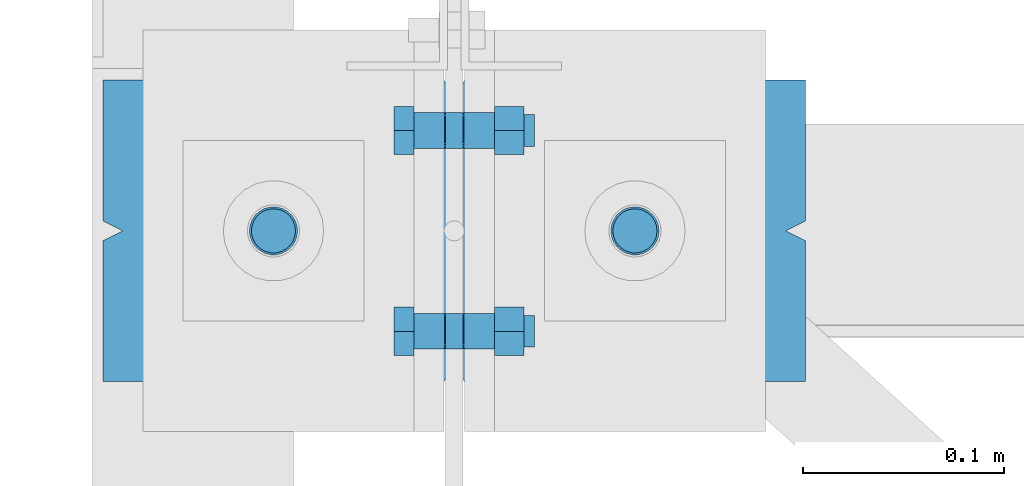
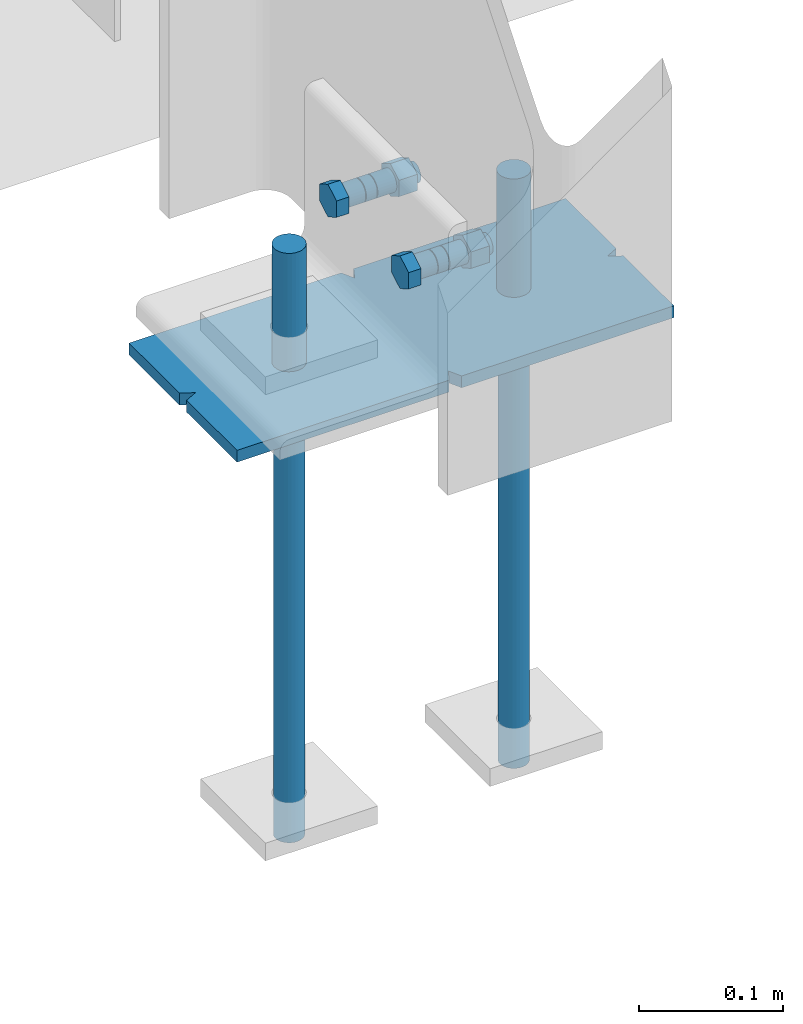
# One storey, part 76 of 123: 5 discrete accessories, 1 mechanical fastener, 2 elements without a shape of their own.
"""IFC2X3 building model written with IfcOpenShell, lengths in millimetres."""

import ifcopenshell
import ifcopenshell.guid

model = None  # the IFC model being written
_history = None  # IfcOwnerHistory: only IFC2X3 demands one
_inside = {}  # id of a spatial element -> (the spatial element, [elements in it])
_under = {}  # id of a project, library or spatial element -> (it, [spatial elements below it])
_declared = {}  # id of a project -> (the project, [libraries it declares])
_typed = {}  # id of a type object -> (the type object, [elements of that type])
_made_of = {}  # id of a material, layer set ... -> (it, [elements and type objects made of it])


def new_model(schema):
    """Start an empty IFC model of exactly this schema.

    Asked for "IFC4X3", IfcOpenShell would pick the latest addendum, in which some entities
    have other attributes; the version numbers below select the first issue.
    IFC2X3 requires an IfcOwnerHistory on every rooted entity: one is made here for all.
    """
    global model, _history
    if schema == "IFC4X3":
        model = ifcopenshell.file(schema_version=(4, 3, 0, 0))
    else:
        model = ifcopenshell.file(schema=schema)
    _inside.clear()
    _under.clear()
    _declared.clear()
    _typed.clear()
    _made_of.clear()
    _history = None
    if model.schema == "IFC2X3":
        org = make("IfcOrganization", Name="unknown")
        user = make(
            "IfcPersonAndOrganization",
            ThePerson=make("IfcPerson", FamilyName="unknown"),
            TheOrganization=org,
        )
        app = make(
            "IfcApplication",
            ApplicationDeveloper=org,
            Version="unknown",
            ApplicationFullName="unknown",
            ApplicationIdentifier="unknown",
        )
        _history = make(
            "IfcOwnerHistory",
            OwningUser=user,
            OwningApplication=app,
            ChangeAction="ADDED",
            CreationDate=0,
        )
    return model


def make(cls, **values):
    """One entity of the class cls with the attributes given. An attribute that is None is left unset."""
    return model.create_entity(
        cls, **{name: value for name, value in values.items() if value is not None}
    )


def rooted(cls, **values):
    """An entity with a GlobalId (a new one), such as an element, a storey or a relation."""
    return make(cls, GlobalId=ifcopenshell.guid.new(), OwnerHistory=_history, **values)


def si_unit(unit_type, name, prefix=None):
    """IfcSIUnit, for example si_unit("LENGTHUNIT", "METRE", prefix="MILLI")."""
    return make("IfcSIUnit", UnitType=unit_type, Prefix=prefix, Name=name)


def assignment(units):
    """IfcUnitAssignment: the units of a project."""
    return None if units is None else make("IfcUnitAssignment", Units=units)


def point(xyz):
    """IfcCartesianPoint."""
    return None if xyz is None else make("IfcCartesianPoint", Coordinates=xyz)


def direction(xyz):
    """IfcDirection."""
    return None if xyz is None else make("IfcDirection", DirectionRatios=xyz)


def frame(location, z_axis=None, x_axis=None):
    """IfcAxis2Placement3D, a coordinate frame: its origin and axes. An axis left out is left unset."""
    return make(
        "IfcAxis2Placement3D",
        Location=point(location),
        Axis=direction(z_axis),
        RefDirection=direction(x_axis),
    )


def frame_2d(location, x_axis=None):
    """IfcAxis2Placement2D, a coordinate frame in the plane: its origin and x axis."""
    return make(
        "IfcAxis2Placement2D", Location=point(location), RefDirection=direction(x_axis)
    )


def origin_with_axes():
    """The frame at (0, 0, 0) with the z axis (0, 0, 1) and the x axis (1, 0, 0) written out."""
    return frame((0.0, 0.0, 0.0), z_axis=(0.0, 0.0, 1.0), x_axis=(1.0, 0.0, 0.0))


def origin_2d_with_axis():
    """The frame at (0, 0) in the plane with the x axis (1, 0) written out."""
    return frame_2d((0.0, 0.0), x_axis=(1.0, 0.0))


def place(relative_to, where):
    """IfcLocalPlacement: puts the frame where relative to a parent placement (None: the world)."""
    return make(
        "IfcLocalPlacement", PlacementRelTo=relative_to, RelativePlacement=where
    )


def context(
    kind, dimensions, precision=None, world=None, true_north=None, identifier=None
):
    """IfcGeometricRepresentationContext, for example the 3D "Model" context."""
    return make(
        "IfcGeometricRepresentationContext",
        ContextIdentifier=identifier,
        ContextType=kind,
        CoordinateSpaceDimension=dimensions,
        Precision=precision,
        WorldCoordinateSystem=world,
        TrueNorth=true_north,
    )


def subcontext(parent, identifier, kind, view, scale=None):
    """IfcGeometricRepresentationSubContext, for example "Body" below "Model"."""
    return make(
        "IfcGeometricRepresentationSubContext",
        ContextIdentifier=identifier,
        ContextType=kind,
        ParentContext=parent,
        TargetScale=scale,
        TargetView=view,
    )


def project(units=None, contexts=None):
    """IfcProject with its units and contexts."""
    return rooted(
        "IfcProject",
        Name="project",
        RepresentationContexts=contexts,
        UnitsInContext=assignment(units),
    )


def spatial(cls, under=None, at=None, **own):
    """A site, building, storey or space (cls), placed at a placement, below another one or the project."""
    s = rooted(cls, ObjectPlacement=at, **own)
    if under is not None:
        _under.setdefault(under.id(), (under, []))[1].append(s)
    return s


def polyline(points):
    """IfcPolyline through the points."""
    return make("IfcPolyline", Points=[point(p) for p in points])


def profile(cls, at=None, kind="AREA", **sizes):
    """A parametric profile (cls). Its sizes go by their IFC names, for example OverallWidth=200.0."""
    return make(cls, ProfileType=kind, Position=at, **sizes)


def circle(**sizes):
    """IfcCircleProfileDef."""
    return profile("IfcCircleProfileDef", **sizes)


def outline(outer, holes=None, kind="AREA"):
    """IfcArbitraryClosedProfileDef: a profile drawn as a closed curve; with holes, ...WithVoids."""
    if holes is None:
        return make("IfcArbitraryClosedProfileDef", ProfileType=kind, OuterCurve=outer)
    return make(
        "IfcArbitraryProfileDefWithVoids",
        ProfileType=kind,
        OuterCurve=outer,
        InnerCurves=holes,
    )


def extrude(swept, where, along, depth):
    """IfcExtrudedAreaSolid: the profile swept, set in the frame where, extruded along a direction by depth."""
    return make(
        "IfcExtrudedAreaSolid",
        SweptArea=swept,
        Position=where,
        ExtrudedDirection=direction(along),
        Depth=depth,
    )


def boolean(op, a, b):
    """IfcBooleanResult of two solids."""
    return make("IfcBooleanResult", Operator=op, FirstOperand=a, SecondOperand=b)


def shape(context_of_items, identifier, shape_type, items):
    """IfcShapeRepresentation: the items that make up one representation, for example the "Body"."""
    return make(
        "IfcShapeRepresentation",
        ContextOfItems=context_of_items,
        RepresentationIdentifier=identifier,
        RepresentationType=shape_type,
        Items=items,
    )


def source(mapping_origin, context_of_items, identifier, shape_type, items):
    """IfcRepresentationMap: a shape defined once, which mapped items show again and again."""
    return make(
        "IfcRepresentationMap",
        MappingOrigin=mapping_origin,
        MappedRepresentation=shape(context_of_items, identifier, shape_type, items),
    )


def transform(
    local_origin,
    x_axis=None,
    y_axis=None,
    z_axis=None,
    scale=None,
    scale2=None,
    scale3=None,
    uniform=True,
):
    """IfcCartesianTransformationOperator3D, or its non-uniform kind. x_axis, y_axis, z_axis: its Axis1, 2, 3."""
    if uniform:
        return make(
            "IfcCartesianTransformationOperator3D",
            Axis1=direction(x_axis),
            Axis2=direction(y_axis),
            LocalOrigin=point(local_origin),
            Scale=scale,
            Axis3=direction(z_axis),
        )
    return make(
        "IfcCartesianTransformationOperator3DnonUniform",
        Axis1=direction(x_axis),
        Axis2=direction(y_axis),
        LocalOrigin=point(local_origin),
        Scale=scale,
        Axis3=direction(z_axis),
        Scale2=scale2,
        Scale3=scale3,
    )


def mapped(mapping_source, mapping_target):
    """IfcMappedItem: shows the shape of a source again, moved by a transform."""
    return make(
        "IfcMappedItem", MappingSource=mapping_source, MappingTarget=mapping_target
    )


def material(Name=None, Category=None):
    """IfcMaterial."""
    return make("IfcMaterial", Name=Name, Category=Category)


def made_of(thing, what):
    """Note that an element or type object is made of a material, layer set ...; save() writes the relation."""
    if what is not None:
        _made_of.setdefault(what.id(), (what, []))[1].append(thing)
    return thing


def type_object(cls, material=None, **own):
    """A type object (cls), such as IfcWallType, which elements share."""
    return made_of(rooted(cls, **own), material)


def element(
    cls,
    number,
    at=None,
    inside=None,
    cuts=None,
    type_object=None,
    material=None,
    context=None,
    identifier="Body",
    shape_type=None,
    held_by="IfcProductDefinitionShape",
    body=None,
    shapes=None,
    **own,
):
    """One element of the class cls, such as IfcWall. Its Tag is "e" and its number.

    at: its placement. inside: the storey or other place that contains it. cuts: it is an
    opening in that element (IfcRelVoidsElement). A single representation is given by context,
    identifier, shape_type and body (its items); several are given by shapes. held_by: the class
    of the entity that holds the representations. save() writes the other relations.
    """
    e = rooted(cls, Tag="e%d" % number, ObjectPlacement=at, **own)
    if body is not None:
        shapes = [shape(context, identifier, shape_type, body)]
    if shapes is not None:
        e.Representation = make(held_by, Representations=shapes)
    if inside is not None:
        _inside.setdefault(inside.id(), (inside, []))[1].append(e)
    if cuts is not None:
        rooted(
            "IfcRelVoidsElement", RelatingBuildingElement=cuts, RelatedOpeningElement=e
        )
    if type_object is not None:
        _typed.setdefault(type_object.id(), (type_object, []))[1].append(e)
    return made_of(e, material)


def aggregate(whole, parts):
    """IfcRelAggregates: a whole, such as a stair, and the parts it consists of."""
    return rooted("IfcRelAggregates", RelatingObject=whole, RelatedObjects=parts)


def save(model, path):
    """Write the relations noted so far, then the file.

    IfcRelAggregates (storeys below a building ...), IfcRelContainedInSpatialStructure (elements
    in a storey), IfcRelDefinesByType, IfcRelAssociatesMaterial and IfcRelDeclares: one each for
    every whole, place, type object, material and project.
    """
    for whole, parts in _under.values():
        aggregate(whole, parts)
    for where, things in _inside.values():
        rooted(
            "IfcRelContainedInSpatialStructure",
            RelatedElements=things,
            RelatingStructure=where,
        )
    for kind, things in _typed.values():
        rooted("IfcRelDefinesByType", RelatedObjects=things, RelatingType=kind)
    for what, things in _made_of.values():
        rooted("IfcRelAssociatesMaterial", RelatedObjects=things, RelatingMaterial=what)
    for by, libraries in _declared.values():
        rooted("IfcRelDeclares", RelatingContext=by, RelatedDefinitions=libraries)
    model.write(path)


model = new_model("IFC2X3")

# Units and contexts
model_context = context("Model", 3, precision=1e-05, world=origin_with_axes())
body_context = subcontext(model_context, "Body", "Model", "MODEL_VIEW")
ifc_project = project(units=[si_unit("LENGTHUNIT", "METRE", prefix="MILLI"), si_unit("AREAUNIT", "SQUARE_METRE"), si_unit("VOLUMEUNIT", "CUBIC_METRE"), si_unit("MASSUNIT", "GRAM", prefix="KILO"), si_unit("TIMEUNIT", "SECOND"), si_unit("PLANEANGLEUNIT", "RADIAN"), si_unit("SOLIDANGLEUNIT", "STERADIAN"), si_unit("THERMODYNAMICTEMPERATUREUNIT", "DEGREE_CELSIUS"), si_unit("LUMINOUSINTENSITYUNIT", "LUMEN")], contexts=[model_context])

# Site, building, storey
site_placement = place(None, origin_with_axes())
site = spatial("IfcSite", under=ifc_project, at=site_placement, Name="Undefined", CompositionType="ELEMENT")
building_placement = place(site_placement, origin_with_axes())
building = spatial("IfcBuilding", under=site, at=building_placement, Name="Undefined", CompositionType="ELEMENT")
storey_placement = place(building_placement, origin_with_axes())
storey = spatial("IfcBuildingStorey", under=building, at=storey_placement, Name="Undefined", CompositionType="ELEMENT", Elevation=0.0)

# Assembly, discrete accessories
assembly_1_placement = place(storey_placement, origin_with_axes())
assembly_1 = element("IfcElementAssembly", 1, at=assembly_1_placement, inside=storey, Name="Steel Assembly", AssemblyPlace="NOTDEFINED", PredefinedType="RIGID_FRAME")
ifc_material_1 = material(Name="STEEL/S235-E24")
discrete_accessory_type_1 = type_object("IfcDiscreteAccessoryType", Name="TIGE D'ANCRAGE")
discrete_accessory_1_placement = place(assembly_1_placement, frame((-90.0028495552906, 15109.9999996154, -150.0), z_axis=(0.0, 1.0, 0.0), x_axis=(0.0, 0.0, -1.0)))
discrete_accessory_1 = element("IfcDiscreteAccessory", 2, at=discrete_accessory_1_placement, type_object=discrete_accessory_type_1, material=ifc_material_1, Name="TIGE D'ANCRAGE", ObjectType="D24", context=body_context, shape_type="SweptSolid", body=[
    extrude(circle(Radius=12.0, at=origin_2d_with_axis()), frame((150.0, 0.0, 0.0), z_axis=(-1.0, 0.0, 0.0), x_axis=(0.0, -1.0, 0.0)), (0.0, 0.0, 1.0), 150.0),
])
discrete_accessory_2_placement = place(assembly_1_placement, frame((-90.0028495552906, 15109.9999996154, -300.0), z_axis=(0.0, 1.0, 0.0), x_axis=(0.0, 0.0, -1.0)))
discrete_accessory_2 = element("IfcDiscreteAccessory", 3, at=discrete_accessory_2_placement, type_object=discrete_accessory_type_1, material=ifc_material_1, Name="TIGE D'ANCRAGE", ObjectType="D22", context=body_context, shape_type="SweptSolid", body=[
    extrude(circle(Radius=11.0, at=origin_2d_with_axis()), frame((350.0, 0.0, 0.0), z_axis=(-1.0, 0.0, 0.0), x_axis=(0.0, -1.0, 0.0)), (0.0, 0.0, 1.0), 350.0),
])
discrete_accessory_3_placement = place(assembly_1_placement, frame((89.9971504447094, 15109.9999996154, -150.0), z_axis=(0.0, 1.0, 0.0), x_axis=(0.0, 0.0, -1.0)))
discrete_accessory_3 = element("IfcDiscreteAccessory", 4, at=discrete_accessory_3_placement, type_object=discrete_accessory_type_1, material=ifc_material_1, Name="TIGE D'ANCRAGE", ObjectType="D24", context=body_context, shape_type="SweptSolid", body=[
    extrude(circle(Radius=12.0, at=origin_2d_with_axis()), frame((150.0, 0.0, 0.0), z_axis=(-1.0, 0.0, 0.0), x_axis=(0.0, -1.0, 0.0)), (0.0, 0.0, 1.0), 150.0),
])
discrete_accessory_4_placement = place(assembly_1_placement, frame((89.9971504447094, 15109.9999996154, -300.0), z_axis=(0.0, 1.0, 0.0), x_axis=(0.0, 0.0, -1.0)))
discrete_accessory_4 = element("IfcDiscreteAccessory", 5, at=discrete_accessory_4_placement, type_object=discrete_accessory_type_1, material=ifc_material_1, Name="TIGE D'ANCRAGE", ObjectType="D22", context=body_context, shape_type="SweptSolid", body=[
    extrude(circle(Radius=11.0, at=origin_2d_with_axis()), frame((350.0, 0.0, 0.0), z_axis=(-1.0, 0.0, 0.0), x_axis=(0.0, -1.0, 0.0)), (0.0, 0.0, 1.0), 350.0),
])
discrete_accessory_type_2 = type_object("IfcDiscreteAccessoryType", Name="PRESCELLEMENT PS24")
discrete_accessory_5_placement = place(assembly_1_placement, frame((175.0, 15109.9999996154, -255.0), z_axis=(0.0, 0.0, 1.0), x_axis=(-1.0, 0.0, 0.0)))
discrete_accessory_5 = element("IfcDiscreteAccessory", 6, at=discrete_accessory_5_placement, type_object=discrete_accessory_type_2, material=ifc_material_1, Name="PRESCELLEMENT PS24", ObjectType="PL10*150", context=body_context, shape_type="CSG", body=[
    boolean("DIFFERENCE", boolean("DIFFERENCE", boolean("DIFFERENCE", boolean("DIFFERENCE", extrude(outline(polyline([(175.000000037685, -65.0000000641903), (169.999999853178, -74.9999999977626), (0.0, -75.0), (0.0, -5.0), (9.99999993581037, -3.76858224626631e-08), (0.0, 5.00000014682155), (0.0, 75.0), (170.0, 75.0), (174.999999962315, 65.0000000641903), (180.000000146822, 75.0), (350.0, 75.0), (350.0, 5.00000018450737), (340.0, 0.0), (350.0, -4.99999996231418), (350.0, -75.0), (180.0, -75.0), (175.000000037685, -65.0000000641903)])), frame((0.0, 0.0, -5.0), z_axis=(0.0, 0.0, 1.0), x_axis=(1.0, 0.0, 0.0)), (0.0, 0.0, 1.0), 10.0), extrude(outline(polyline([(0.0, 0.0), (11.1803398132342, 1.2732925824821e-11), (4.47213602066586, 8.94427204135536), (0.0, 0.0)])), frame((0.0, -5.0, -7.5), z_axis=(0.0, 0.0, 1.0), x_axis=(0.89442719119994, 0.44721359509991, 0.0)), (0.0, 0.0, 1.0), 15.0)), extrude(outline(polyline([(0.0, 0.0), (11.1803398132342, 1.2732925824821e-11), (4.47213602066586, 8.94427204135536), (0.0, 0.0)])), frame((180.0, -75.0, -7.5), z_axis=(0.0, 0.0, 1.0), x_axis=(-0.447213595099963, 0.894427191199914, 0.0)), (0.0, 0.0, 1.0), 15.0)), extrude(outline(polyline([(0.0, 0.0), (11.1803398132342, 1.2732925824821e-11), (6.70820379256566, 8.94427204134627), (0.0, 0.0)])), frame((340.0, 0.0, -7.5), z_axis=(0.0, 0.0, 1.0), x_axis=(0.89442719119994, -0.44721359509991, 0.0)), (0.0, 0.0, 1.0), 15.0)), extrude(outline(polyline([(0.0, 0.0), (11.1803398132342, 1.2732925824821e-11), (4.47213602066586, 8.94427204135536), (0.0, 0.0)])), frame((170.0, 75.0, -7.5), z_axis=(0.0, 0.0, 1.0), x_axis=(0.447213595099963, -0.894427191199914, 0.0)), (0.0, 0.0, 1.0), 15.0)),
])
aggregate(assembly_1, [discrete_accessory_1, discrete_accessory_2, discrete_accessory_3, discrete_accessory_4, discrete_accessory_5])

# Assembly, mechanical fastener
assembly_2_placement = place(storey_placement, origin_with_axes())
assembly_2 = element("IfcElementAssembly", 7, at=assembly_2_placement, inside=storey, Name="Steel Assembly", AssemblyPlace="NOTDEFINED", PredefinedType="RIGID_FRAME")
ifc_material_2 = material(Name="8.8-SB-Z")
discrete_accessory_type_3 = type_object("IfcDiscreteAccessoryType", Name="Bolt assembly")
shared_shape = source(origin_with_axes(), body_context, "Body", "SweptSolid", [
    extrude(circle(Radius=9.0, at=origin_2d_with_axis()), frame((0.0, -4.29715063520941, 0.0), z_axis=(0.0, 1.0, 0.0), x_axis=(1.0, 0.0, 0.0)), (0.0, 0.0, 1.0), 8.6),
    extrude(circle(Radius=9.0, at=origin_2d_with_axis()), frame((0.0, -19.9, 0.0), z_axis=(0.0, 1.0, 0.0), x_axis=(1.0, 0.0, 0.0)), (0.0, 0.0, 1.0), 15.0),
    extrude(circle(Radius=9.0, at=origin_2d_with_axis()), frame((0.0, 4.90000000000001, 0.0), z_axis=(0.0, 1.0, 0.0), x_axis=(1.0, 0.0, 0.0)), (0.0, 0.0, 1.0), 15.1),
    extrude(outline(polyline([(13.85640646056, 0.0), (6.92820323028, 12.0000000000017), (-6.92820323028, 12.0000000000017), (-13.85640646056, 0.0), (-6.92820323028, -12.0000000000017), (6.92820323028, -12.0000000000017), (13.85640646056, 0.0)])), frame((0.0, -30.0, 0.0), z_axis=(0.0, 1.0, 0.0), x_axis=(1.0, 0.0, 0.0)), (0.0, 0.0, 1.0), 10.0),
    extrude(circle(Radius=8.0, at=origin_2d_with_axis()), frame((0.0, -20.0, 0.0), z_axis=(0.0, 1.0, 0.0), x_axis=(1.0, 0.0, 0.0)), (0.0, 0.0, 1.0), 60.0),
    extrude(outline(polyline([(13.85640646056, 0.0), (6.92820323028, 12.0000000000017), (-6.92820323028, 12.0000000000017), (-13.85640646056, 0.0), (-6.92820323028, -12.0000000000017), (6.92820323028, -12.0000000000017), (13.85640646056, 0.0)])), frame((0.0, 20.0, 0.0), z_axis=(0.0, 1.0, 0.0), x_axis=(1.0, 0.0, 0.0)), (0.0, 0.0, 1.0), 14.8),
])
mechanical_fastener_placement = place(assembly_2_placement, frame((-0.00284890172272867, 15110.0000024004, -164.999999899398), z_axis=(0.0, -1.0, 0.0), x_axis=(0.0, 0.0, -1.0)))
mechanical_fastener = element("IfcMechanicalFastener", 8, at=mechanical_fastener_placement, type_object=discrete_accessory_type_3, material=ifc_material_2, Name="Bolt assembly", NominalDiameter=16.0, NominalLength=60.0, context=body_context, shape_type="MappedRepresentation", body=[
    mapped(shared_shape, transform((0.0, 0.0, -50.0))),
    mapped(shared_shape, transform((0.0, 0.0, 50.0))),
])
aggregate(assembly_2, [mechanical_fastener])

save(model, "model.ifc")
